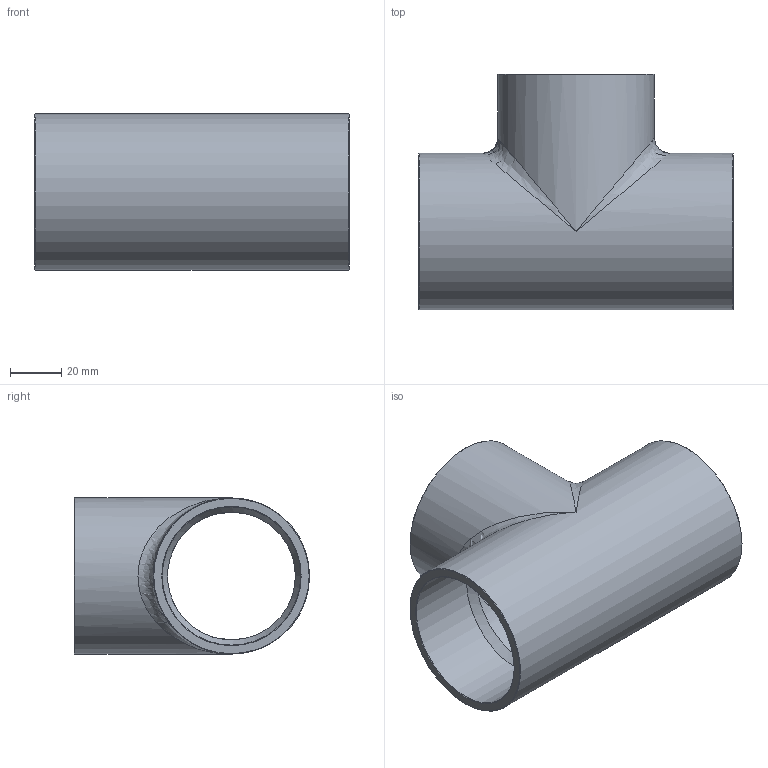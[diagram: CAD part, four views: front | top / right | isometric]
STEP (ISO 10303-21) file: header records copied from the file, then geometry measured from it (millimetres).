
FILE_DESCRIPTION((''),'2;1');
FILE_NAME('G:\SANHA-Ternat\Technik\Management\Bouwmaten + markeringen\z-maattekeningen 3D\29000s\29130218_3d.stp','2017-07-27T08:23:56',('vdvijverd'),(''),'Autodesk Inventor 2009','Autodesk Inventor 2009','');
FILE_SCHEMA(('AUTOMOTIVE_DESIGN { 1 0 10303 214 1 1 1 1 }'));
Length unit declared in the file: millimetre
Products named in the file (1): 29130218_3d
Bounding box: 123 x 92.1 x 61.2 mm (x, y, z)
Volume: 115625.2 mm3; surface area: 54894.6 mm2
Topology: 1 solids, 1 shells, 24 faces, 66 edges, 35 vertices
Faces by surface type: cone 8, cylinder 7, bspline 6, plane 3
Full cylindrical faces by diameter (mm): 54.155 x2, 61.2 x2
Entity records: 1490 total; most frequent: CARTESIAN_POINT 997, DIRECTION 104, ORIENTED_EDGE 74, AXIS2_PLACEMENT_3D 52, EDGE_LOOP 42, EDGE_CURVE 37, VERTEX_POINT 29, FACE_OUTER_BOUND 24
